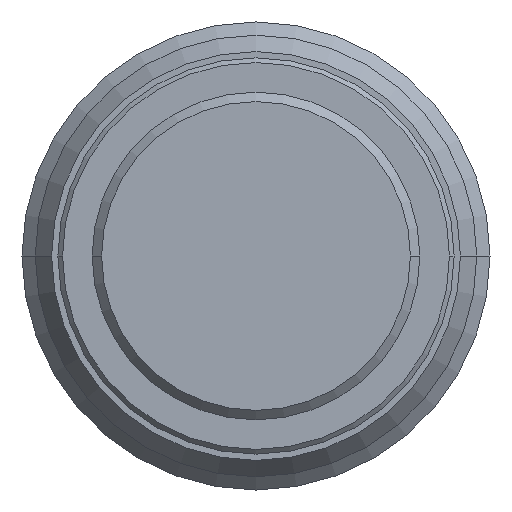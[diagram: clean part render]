
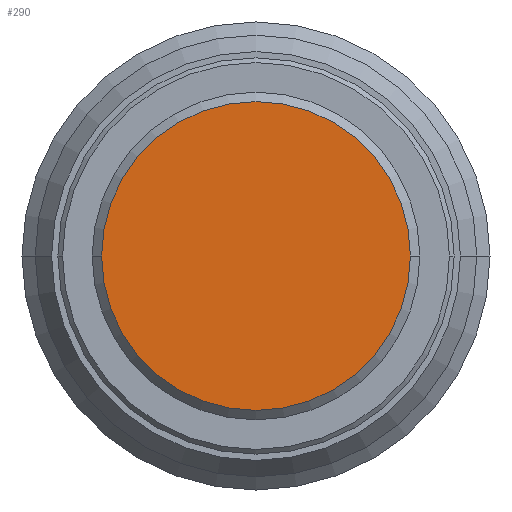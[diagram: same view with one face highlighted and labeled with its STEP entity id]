
A CAD part, front view. The second image highlights one B-rep face of the part: STEP entity #290.
In plain terms, the highlighted planar face has unit normal (0, -1, 0) as drawn and (1, 0, 0) by its records, which use the part's own axes.
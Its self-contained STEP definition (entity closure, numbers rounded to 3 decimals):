
#129=PLANE('',#1665);
#290=ADVANCED_FACE('',(#398),#129,.T.);
#398=FACE_OUTER_BOUND('',#495,.T.);
#495=EDGE_LOOP('',(#1048,#1049));
#1048=ORIENTED_EDGE('',*,*,#1386,.T.);
#1049=ORIENTED_EDGE('',*,*,#1283,.T.);
#1119=VERTEX_POINT('',#2354);
#1120=VERTEX_POINT('',#2355);
#1283=EDGE_CURVE('',#1119,#1120,#1443,.T.);
#1386=EDGE_CURVE('',#1120,#1119,#1482,.T.);
#1443=CIRCLE('',#1584,9.9);
#1482=CIRCLE('',#1664,9.9);
#1584=AXIS2_PLACEMENT_3D('',#2353,#1907,#1908);
#1664=AXIS2_PLACEMENT_3D('',#2631,#2111,#2112);
#1665=AXIS2_PLACEMENT_3D('',#2632,#2113,#2114);
#1907=DIRECTION('',(1.,0.,0.));
#1908=DIRECTION('',(0.,0.,-1.));
#2111=DIRECTION('',(1.,0.,0.));
#2112=DIRECTION('',(0.,0.,-1.));
#2113=DIRECTION('',(1.,0.,0.));
#2114=DIRECTION('',(0.,0.,1.));
#2353=CARTESIAN_POINT('',(58.,0.,0.));
#2354=CARTESIAN_POINT('',(58.,0.,-9.9));
#2355=CARTESIAN_POINT('',(58.,0.,9.9));
#2631=CARTESIAN_POINT('',(58.,0.,0.));
#2632=CARTESIAN_POINT('',(58.,0.,0.));
